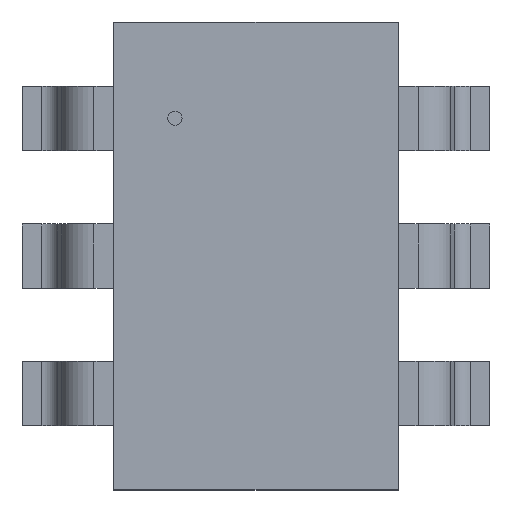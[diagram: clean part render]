
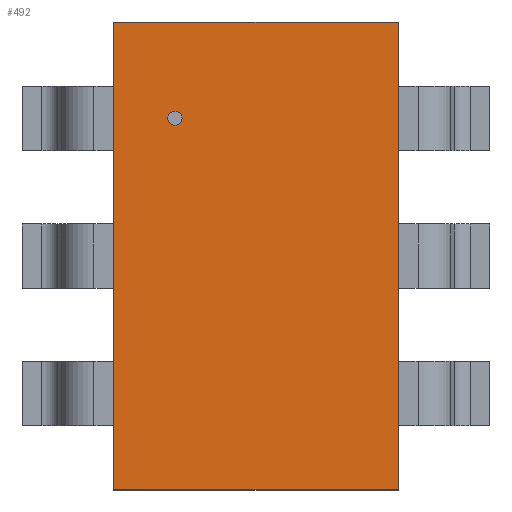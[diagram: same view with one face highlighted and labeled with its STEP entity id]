
A CAD part, top view. The second image highlights one B-rep face of the part: STEP entity #492.
In plain terms, the highlighted planar face has unit normal (0, 0, 1).
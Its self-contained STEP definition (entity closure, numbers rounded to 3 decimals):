
#268=CARTESIAN_POINT('',(0.673,-1.105,0.991));
#267=VERTEX_POINT('',#268);
#278=CARTESIAN_POINT('',(-0.673,-1.105,0.991));
#277=VERTEX_POINT('',#278);
#276=EDGE_CURVE('',#277,#267,#281,.T.);
#281=LINE('',#278,#283);
#283=VECTOR('',#284,1.346);
#284=DIRECTION('',(1.0,0.0,0.0));
#317=CARTESIAN_POINT('',(0.673,1.105,0.991));
#316=VERTEX_POINT('',#317);
#325=EDGE_CURVE('',#267,#316,#330,.T.);
#330=LINE('',#268,#332);
#332=VECTOR('',#333,2.21);
#333=DIRECTION('',(0.0,1.0,0.0));
#366=CARTESIAN_POINT('',(-0.673,1.105,0.991));
#365=VERTEX_POINT('',#366);
#374=EDGE_CURVE('',#316,#365,#379,.T.);
#379=LINE('',#317,#381);
#381=VECTOR('',#382,1.346);
#382=DIRECTION('',(-1.0,0.0,0.0));
#423=EDGE_CURVE('',#365,#277,#428,.T.);
#428=LINE('',#366,#430);
#430=VECTOR('',#431,2.21);
#431=DIRECTION('',(0.0,-1.0,0.0));
#492=ADVANCED_FACE('',(#498),#493,.T.);
#493=PLANE('',#494);
#494=AXIS2_PLACEMENT_3D('',#495,#496,#497);
#495=CARTESIAN_POINT('',(-0.673,-1.105,0.991));
#496=DIRECTION('',(0.0,0.0,1.0));
#497=DIRECTION('',(0.,1.,0.));
#498=FACE_OUTER_BOUND('',#499,.T.);
#499=EDGE_LOOP('',(#500,#510,#520,#530));
#500=ORIENTED_EDGE('',*,*,#276,.T.);
#510=ORIENTED_EDGE('',*,*,#325,.T.);
#520=ORIENTED_EDGE('',*,*,#374,.T.);
#530=ORIENTED_EDGE('',*,*,#423,.T.);
